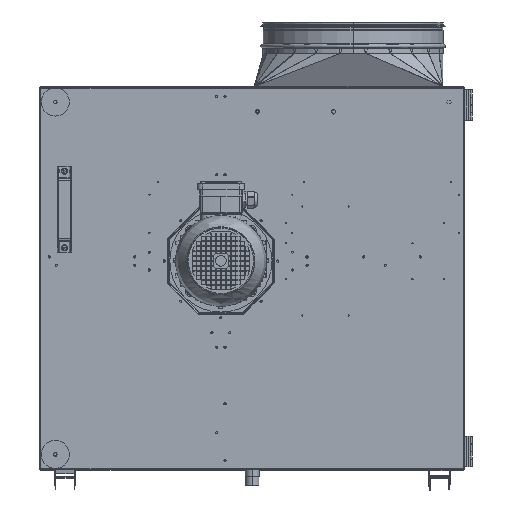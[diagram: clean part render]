
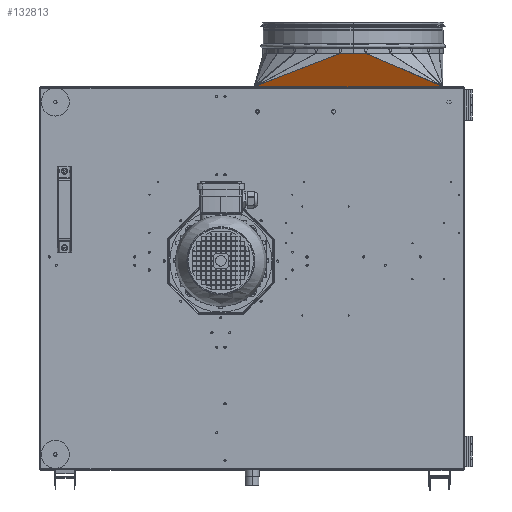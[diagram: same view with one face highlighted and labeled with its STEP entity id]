
A CAD part, top view. The second image highlights one B-rep face of the part: STEP entity #132813.
In plain terms, the highlighted planar face has unit normal (0, -0.472, 0.881).
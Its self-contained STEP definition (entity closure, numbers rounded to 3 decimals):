
#1404 = VECTOR ( 'NONE', #79450, 1000. ) ;
#3970 = PLANE ( 'NONE',  #162210 ) ;
#5294 = CARTESIAN_POINT ( 'NONE',  ( 372.449, 375.74, 320. ) ) ;
#6442 = VECTOR ( 'NONE', #115536, 1000. ) ;
#10141 = DIRECTION ( 'NONE',  ( -1., 0., 0. ) ) ;
#10156 = EDGE_CURVE ( 'NONE', #180221, #48571, #97072, .T. ) ;
#11764 = DIRECTION ( 'NONE',  ( -1., 0., 0. ) ) ;
#15783 = ORIENTED_EDGE ( 'NONE', *, *, #161094, .T. ) ;
#16846 = EDGE_CURVE ( 'NONE', #124192, #76954, #164063, .T. ) ;
#19264 = FACE_OUTER_BOUND ( 'NONE', #136914, .T. ) ;
#19617 = VERTEX_POINT ( 'NONE', #5294 ) ;
#23032 = EDGE_CURVE ( 'NONE', #154550, #76954, #158099, .T. ) ;
#33776 = CARTESIAN_POINT ( 'NONE',  ( 197.773, 368.175, 315.944 ) ) ;
#40839 = LINE ( 'NONE', #138433, #1404 ) ;
#44473 = VECTOR ( 'NONE', #156339, 1000. ) ;
#48571 = VERTEX_POINT ( 'NONE', #133037 ) ;
#48697 = DIRECTION ( 'NONE',  ( 0., 0.881, 0.473 ) ) ;
#49090 = EDGE_CURVE ( 'NONE', #48571, #19617, #71956, .T. ) ;
#54813 = CARTESIAN_POINT ( 'NONE',  ( 373.815, 375.74, 320. ) ) ;
#58091 = VECTOR ( 'NONE', #10141, 1000. ) ;
#69227 = CARTESIAN_POINT ( 'NONE',  ( 4.545, 375.74, 320. ) ) ;
#71956 = LINE ( 'NONE', #146434, #185526 ) ;
#76954 = VERTEX_POINT ( 'NONE', #189184 ) ;
#79450 = DIRECTION ( 'NONE',  ( 0.899, -0.387, -0.207 ) ) ;
#91856 = CARTESIAN_POINT ( 'NONE',  ( 171.42, 440.24, 354.582 ) ) ;
#93097 = VECTOR ( 'NONE', #126388, 1000. ) ;
#95841 = ORIENTED_EDGE ( 'NONE', *, *, #16846, .T. ) ;
#97072 = LINE ( 'NONE', #189297, #131856 ) ;
#97194 = CARTESIAN_POINT ( 'NONE',  ( 197.773, 440.24, 354.582 ) ) ;
#97397 = CARTESIAN_POINT ( 'NONE',  ( 373.815, 375.74, 320. ) ) ;
#104168 = VERTEX_POINT ( 'NONE', #121670 ) ;
#113933 = CARTESIAN_POINT ( 'NONE',  ( 373.815, 375.74, 320. ) ) ;
#115536 = DIRECTION ( 'NONE',  ( -0.917, -0.353, -0.189 ) ) ;
#121670 = CARTESIAN_POINT ( 'NONE',  ( 223.988, 440.24, 354.582 ) ) ;
#124192 = VERTEX_POINT ( 'NONE', #91856 ) ;
#126388 = DIRECTION ( 'NONE',  ( -1., 0., 0. ) ) ;
#129577 = EDGE_CURVE ( 'NONE', #104168, #180221, #40839, .T. ) ;
#131856 = VECTOR ( 'NONE', #11764, 1000. ) ;
#132813 = ADVANCED_FACE ( 'NONE', ( #19264 ), #3970, .T. ) ;
#133037 = CARTESIAN_POINT ( 'NONE',  ( 372.755, 375.74, 320. ) ) ;
#133477 = VECTOR ( 'NONE', #145502, 1000. ) ;
#135195 = ORIENTED_EDGE ( 'NONE', *, *, #23032, .F. ) ;
#136914 = EDGE_LOOP ( 'NONE', ( #142796, #15783, #95841, #135195, #169122, #144225, #154832, #162445 ) ) ;
#137500 = DIRECTION ( 'NONE',  ( 0., -0.473, 0.881 ) ) ;
#138433 = CARTESIAN_POINT ( 'NONE',  ( 222.827, 440.74, 354.85 ) ) ;
#142796 = ORIENTED_EDGE ( 'NONE', *, *, #129577, .F. ) ;
#144225 = ORIENTED_EDGE ( 'NONE', *, *, #145651, .F. ) ;
#144850 = CARTESIAN_POINT ( 'NONE',  ( 373.815, 375.74, 320. ) ) ;
#145502 = DIRECTION ( 'NONE',  ( -1., 0., 0. ) ) ;
#145651 = EDGE_CURVE ( 'NONE', #19617, #153058, #172855, .T. ) ;
#146434 = CARTESIAN_POINT ( 'NONE',  ( 373.815, 375.74, 320. ) ) ;
#153058 = VERTEX_POINT ( 'NONE', #190270 ) ;
#154550 = VERTEX_POINT ( 'NONE', #69227 ) ;
#154832 = ORIENTED_EDGE ( 'NONE', *, *, #49090, .F. ) ;
#156339 = DIRECTION ( 'NONE',  ( -1., 0., 0. ) ) ;
#158099 = LINE ( 'NONE', #97397, #44473 ) ;
#161094 = EDGE_CURVE ( 'NONE', #104168, #124192, #171940, .T. ) ;
#161891 = DIRECTION ( 'NONE',  ( -1., 0., 0. ) ) ;
#162210 = AXIS2_PLACEMENT_3D ( 'NONE', #33776, #137500, #48697 ) ;
#162445 = ORIENTED_EDGE ( 'NONE', *, *, #10156, .F. ) ;
#164063 = LINE ( 'NONE', #189275, #6442 ) ;
#169122 = ORIENTED_EDGE ( 'NONE', *, *, #178548, .F. ) ;
#171940 = LINE ( 'NONE', #97194, #93097 ) ;
#172855 = LINE ( 'NONE', #144850, #133477 ) ;
#178548 = EDGE_CURVE ( 'NONE', #153058, #154550, #180925, .T. ) ;
#180221 = VERTEX_POINT ( 'NONE', #54813 ) ;
#180925 = LINE ( 'NONE', #113933, #58091 ) ;
#185526 = VECTOR ( 'NONE', #161891, 1000. ) ;
#189184 = CARTESIAN_POINT ( 'NONE',  ( 3.715, 375.74, 320. ) ) ;
#189275 = CARTESIAN_POINT ( 'NONE',  ( 3.715, 375.74, 320. ) ) ;
#189297 = CARTESIAN_POINT ( 'NONE',  ( 373.815, 375.74, 320. ) ) ;
#190270 = CARTESIAN_POINT ( 'NONE',  ( 5.081, 375.74, 320. ) ) ;
